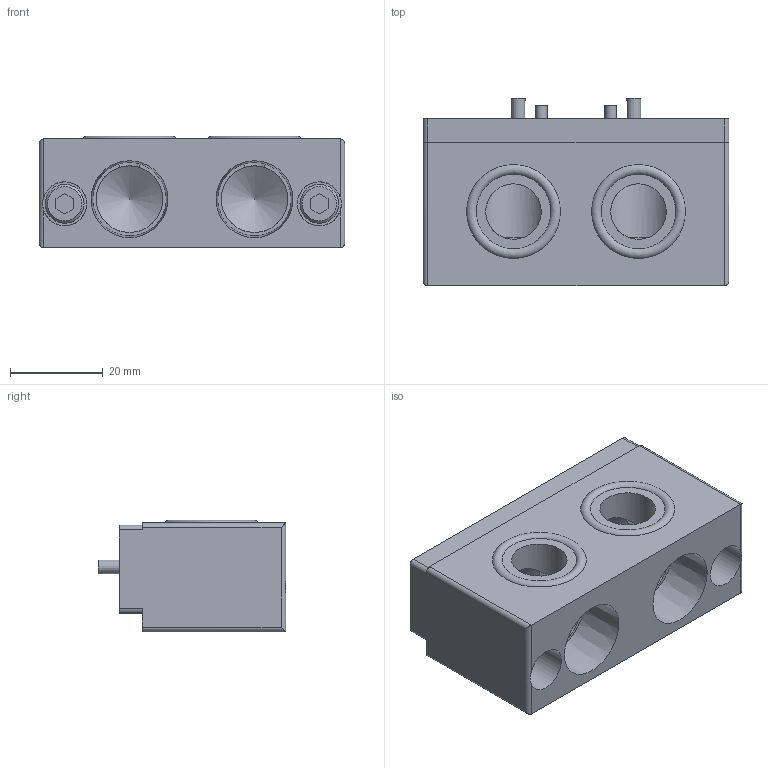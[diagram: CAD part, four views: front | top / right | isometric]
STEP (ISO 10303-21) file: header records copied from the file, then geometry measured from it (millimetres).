
FILE_DESCRIPTION(('STEP AP214'),'1');
FILE_NAME('KHF-12HS-EP102_ver1.stp','2026-04-27T05:01:11',(' '),(' '),'Spatial InterOp 3D',' ',' ');
FILE_SCHEMA(('AUTOMOTIVE_DESIGN { 1 0 10303 214 1 1 1 1 }'));
Length unit declared in the file: millimetre
Products named in the file (1): KHF-12HS-EP102_ver1
Bounding box: 66 x 40.5 x 24.1 mm (x, y, z)
Volume: 41436.1 mm3; surface area: 14849.8 mm2
Topology: 1 solids, 9 shells, 126 faces, 270 edges, 178 vertices
Faces by surface type: plane 76, cylinder 36, cone 12, torus 2
Full cylindrical faces by diameter (mm): 2.5 x4, 3.5 x2, 4 x2, 4.2 x2, 5.41 x2, 5.5 x2, 6.5 x2, 8.385 x2, 9.5 x2, 12 x2, 14.4 x2
Entity records: 4246 total; most frequent: CARTESIAN_POINT 661, DIRECTION 550, ORIENTED_EDGE 430, EDGE_CURVE 215, AXIS2_PLACEMENT_3D 214, EDGE_LOOP 188, VERTEX_POINT 163, FACE_OUTER_BOUND 152
